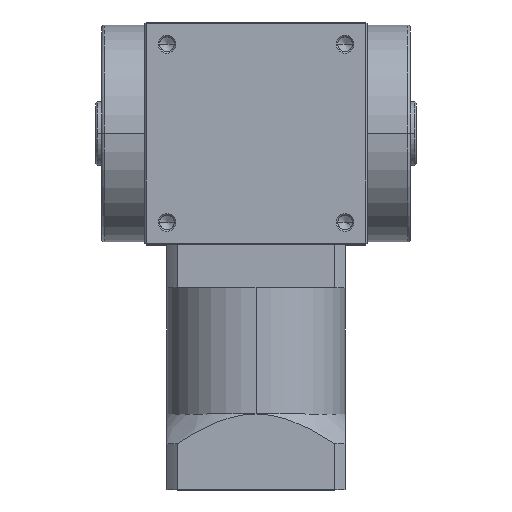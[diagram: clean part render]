
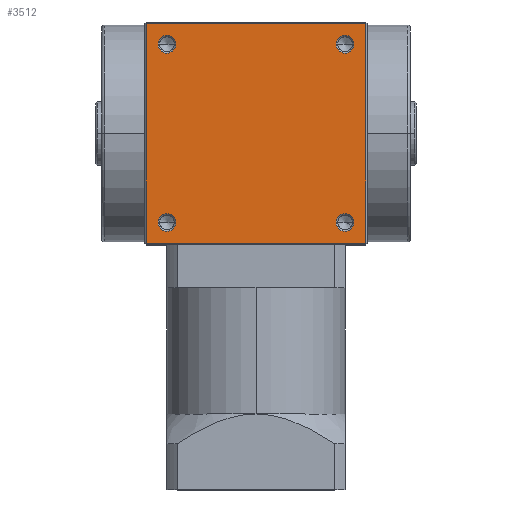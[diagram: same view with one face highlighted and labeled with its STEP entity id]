
A CAD part, top view. The second image highlights one B-rep face of the part: STEP entity #3512.
In plain terms, the highlighted planar face has unit normal (0, 0, 1).
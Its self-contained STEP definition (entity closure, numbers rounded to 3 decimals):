
#60 = VERTEX_POINT ( 'NONE', #4028 ) ;
#68 = CARTESIAN_POINT ( 'NONE',  ( 0., 37., 37.5 ) ) ;
#91 = FACE_BOUND ( 'NONE', #483, .T. ) ;
#111 = CIRCLE ( 'NONE', #4612, 3. ) ;
#323 = EDGE_LOOP ( 'NONE', ( #3933, #6963 ) ) ;
#350 = CIRCLE ( 'NONE', #8186, 3. ) ;
#403 = EDGE_CURVE ( 'NONE', #6449, #3409, #6185, .T. ) ;
#423 = ORIENTED_EDGE ( 'NONE', *, *, #7530, .T. ) ;
#462 = EDGE_CURVE ( 'NONE', #3015, #2014, #350, .T. ) ;
#467 = LINE ( 'NONE', #4036, #6776 ) ;
#483 = EDGE_LOOP ( 'NONE', ( #2809, #6401 ) ) ;
#499 = AXIS2_PLACEMENT_3D ( 'NONE', #3687, #1535, #5113 ) ;
#504 = DIRECTION ( 'NONE',  ( -1., 0., 0. ) ) ;
#545 = DIRECTION ( 'NONE',  ( 0., 0., -1. ) ) ;
#656 = CARTESIAN_POINT ( 'NONE',  ( 27., 30., 37.5 ) ) ;
#675 = CARTESIAN_POINT ( 'NONE',  ( 27., -30., 37.5 ) ) ;
#708 = EDGE_CURVE ( 'NONE', #2014, #3015, #4658, .T. ) ;
#729 = ORIENTED_EDGE ( 'NONE', *, *, #8294, .T. ) ;
#746 = FACE_BOUND ( 'NONE', #8736, .T. ) ;
#981 = DIRECTION ( 'NONE',  ( 0., 0., -1. ) ) ;
#1303 = CARTESIAN_POINT ( 'NONE',  ( 30., 30., 37.5 ) ) ;
#1402 = DIRECTION ( 'NONE',  ( 0., 0., -1. ) ) ;
#1535 = DIRECTION ( 'NONE',  ( 0., 0., -1. ) ) ;
#1586 = EDGE_CURVE ( 'NONE', #5740, #5176, #7466, .T. ) ;
#1767 = CARTESIAN_POINT ( 'NONE',  ( 37., -37., 37.5 ) ) ;
#1787 = ORIENTED_EDGE ( 'NONE', *, *, #403, .T. ) ;
#1890 = FACE_BOUND ( 'NONE', #323, .T. ) ;
#1893 = EDGE_LOOP ( 'NONE', ( #5828, #7818 ) ) ;
#2014 = VERTEX_POINT ( 'NONE', #4468 ) ;
#2120 = VERTEX_POINT ( 'NONE', #7483 ) ;
#2156 = AXIS2_PLACEMENT_3D ( 'NONE', #3721, #3668, #8604 ) ;
#2336 = CARTESIAN_POINT ( 'NONE',  ( 30., -30., 37.5 ) ) ;
#2512 = CARTESIAN_POINT ( 'NONE',  ( 37., 37., 37.5 ) ) ;
#2743 = DIRECTION ( 'NONE',  ( -1., 0., 0. ) ) ;
#2764 = AXIS2_PLACEMENT_3D ( 'NONE', #2336, #981, #4426 ) ;
#2809 = ORIENTED_EDGE ( 'NONE', *, *, #708, .T. ) ;
#2937 = AXIS2_PLACEMENT_3D ( 'NONE', #1303, #8220, #504 ) ;
#3004 = DIRECTION ( 'NONE',  ( 0., 1., 0. ) ) ;
#3015 = VERTEX_POINT ( 'NONE', #675 ) ;
#3276 = DIRECTION ( 'NONE',  ( 0., -1., 0. ) ) ;
#3304 = CARTESIAN_POINT ( 'NONE',  ( 30., -30., 37.5 ) ) ;
#3409 = VERTEX_POINT ( 'NONE', #3632 ) ;
#3414 = VECTOR ( 'NONE', #2743, 1000. ) ;
#3512 = ADVANCED_FACE ( 'NONE', ( #91, #746, #7294, #1890, #3977 ), #7895, .F. ) ;
#3566 = CARTESIAN_POINT ( 'NONE',  ( 30., 30., 37.5 ) ) ;
#3612 = ORIENTED_EDGE ( 'NONE', *, *, #7645, .T. ) ;
#3632 = CARTESIAN_POINT ( 'NONE',  ( -37., -37., 37.5 ) ) ;
#3634 = DIRECTION ( 'NONE',  ( 0., 0., -1. ) ) ;
#3668 = DIRECTION ( 'NONE',  ( 0., 0., -1. ) ) ;
#3687 = CARTESIAN_POINT ( 'NONE',  ( -30., 30., 37.5 ) ) ;
#3689 = DIRECTION ( 'NONE',  ( 0., 0., -1. ) ) ;
#3721 = CARTESIAN_POINT ( 'NONE',  ( 0., 0., 37.5 ) ) ;
#3740 = CARTESIAN_POINT ( 'NONE',  ( -30., -30., 37.5 ) ) ;
#3780 = EDGE_CURVE ( 'NONE', #4551, #6449, #8158, .T. ) ;
#3783 = AXIS2_PLACEMENT_3D ( 'NONE', #7811, #6293, #7720 ) ;
#3902 = VERTEX_POINT ( 'NONE', #5006 ) ;
#3933 = ORIENTED_EDGE ( 'NONE', *, *, #4849, .T. ) ;
#3977 = FACE_OUTER_BOUND ( 'NONE', #5742, .T. ) ;
#4028 = CARTESIAN_POINT ( 'NONE',  ( -27., 30., 37.5 ) ) ;
#4031 = CARTESIAN_POINT ( 'NONE',  ( -30., 30., 37.5 ) ) ;
#4036 = CARTESIAN_POINT ( 'NONE',  ( 0., -37., 37.5 ) ) ;
#4213 = ORIENTED_EDGE ( 'NONE', *, *, #3780, .T. ) ;
#4255 = DIRECTION ( 'NONE',  ( -1., 0., 0. ) ) ;
#4315 = AXIS2_PLACEMENT_3D ( 'NONE', #3566, #1402, #4255 ) ;
#4426 = DIRECTION ( 'NONE',  ( -1., 0., 0. ) ) ;
#4468 = CARTESIAN_POINT ( 'NONE',  ( 33., -30., 37.5 ) ) ;
#4551 = VERTEX_POINT ( 'NONE', #2512 ) ;
#4612 = AXIS2_PLACEMENT_3D ( 'NONE', #4031, #3634, #6158 ) ;
#4658 = CIRCLE ( 'NONE', #2764, 3. ) ;
#4849 = EDGE_CURVE ( 'NONE', #60, #3902, #5506, .T. ) ;
#5006 = CARTESIAN_POINT ( 'NONE',  ( -33., 30., 37.5 ) ) ;
#5057 = CARTESIAN_POINT ( 'NONE',  ( 37., 0., 37.5 ) ) ;
#5113 = DIRECTION ( 'NONE',  ( -1., 0., 0. ) ) ;
#5176 = VERTEX_POINT ( 'NONE', #6837 ) ;
#5400 = VECTOR ( 'NONE', #3004, 1000. ) ;
#5506 = CIRCLE ( 'NONE', #499, 3. ) ;
#5620 = CARTESIAN_POINT ( 'NONE',  ( -37., 37., 37.5 ) ) ;
#5740 = VERTEX_POINT ( 'NONE', #656 ) ;
#5742 = EDGE_LOOP ( 'NONE', ( #1787, #6638, #729, #4213 ) ) ;
#5828 = ORIENTED_EDGE ( 'NONE', *, *, #8802, .T. ) ;
#6064 = DIRECTION ( 'NONE',  ( 1., 0., 0. ) ) ;
#6158 = DIRECTION ( 'NONE',  ( -1., 0., 0. ) ) ;
#6185 = LINE ( 'NONE', #7525, #8537 ) ;
#6293 = DIRECTION ( 'NONE',  ( 0., 0., -1. ) ) ;
#6401 = ORIENTED_EDGE ( 'NONE', *, *, #462, .T. ) ;
#6427 = VERTEX_POINT ( 'NONE', #6989 ) ;
#6449 = VERTEX_POINT ( 'NONE', #5620 ) ;
#6638 = ORIENTED_EDGE ( 'NONE', *, *, #8848, .T. ) ;
#6776 = VECTOR ( 'NONE', #6064, 1000. ) ;
#6837 = CARTESIAN_POINT ( 'NONE',  ( 33., 30., 37.5 ) ) ;
#6838 = LINE ( 'NONE', #5057, #5400 ) ;
#6963 = ORIENTED_EDGE ( 'NONE', *, *, #7881, .T. ) ;
#6989 = CARTESIAN_POINT ( 'NONE',  ( -27., -30., 37.5 ) ) ;
#7236 = CIRCLE ( 'NONE', #2937, 3. ) ;
#7294 = FACE_BOUND ( 'NONE', #1893, .T. ) ;
#7372 = VERTEX_POINT ( 'NONE', #1767 ) ;
#7419 = CIRCLE ( 'NONE', #8104, 3. ) ;
#7466 = CIRCLE ( 'NONE', #4315, 3. ) ;
#7483 = CARTESIAN_POINT ( 'NONE',  ( -33., -30., 37.5 ) ) ;
#7525 = CARTESIAN_POINT ( 'NONE',  ( -37., 0., 37.5 ) ) ;
#7530 = EDGE_CURVE ( 'NONE', #2120, #6427, #8306, .T. ) ;
#7645 = EDGE_CURVE ( 'NONE', #6427, #2120, #7419, .T. ) ;
#7720 = DIRECTION ( 'NONE',  ( -1., 0., 0. ) ) ;
#7811 = CARTESIAN_POINT ( 'NONE',  ( -30., -30., 37.5 ) ) ;
#7818 = ORIENTED_EDGE ( 'NONE', *, *, #1586, .T. ) ;
#7881 = EDGE_CURVE ( 'NONE', #3902, #60, #111, .T. ) ;
#7895 = PLANE ( 'NONE',  #2156 ) ;
#8104 = AXIS2_PLACEMENT_3D ( 'NONE', #3740, #3689, #8686 ) ;
#8158 = LINE ( 'NONE', #68, #3414 ) ;
#8186 = AXIS2_PLACEMENT_3D ( 'NONE', #3304, #545, #8205 ) ;
#8205 = DIRECTION ( 'NONE',  ( -1., 0., 0. ) ) ;
#8220 = DIRECTION ( 'NONE',  ( 0., 0., -1. ) ) ;
#8294 = EDGE_CURVE ( 'NONE', #7372, #4551, #6838, .T. ) ;
#8306 = CIRCLE ( 'NONE', #3783, 3. ) ;
#8537 = VECTOR ( 'NONE', #3276, 1000. ) ;
#8604 = DIRECTION ( 'NONE',  ( -1., 0., 0. ) ) ;
#8686 = DIRECTION ( 'NONE',  ( -1., 0., 0. ) ) ;
#8736 = EDGE_LOOP ( 'NONE', ( #3612, #423 ) ) ;
#8802 = EDGE_CURVE ( 'NONE', #5176, #5740, #7236, .T. ) ;
#8848 = EDGE_CURVE ( 'NONE', #3409, #7372, #467, .T. ) ;
